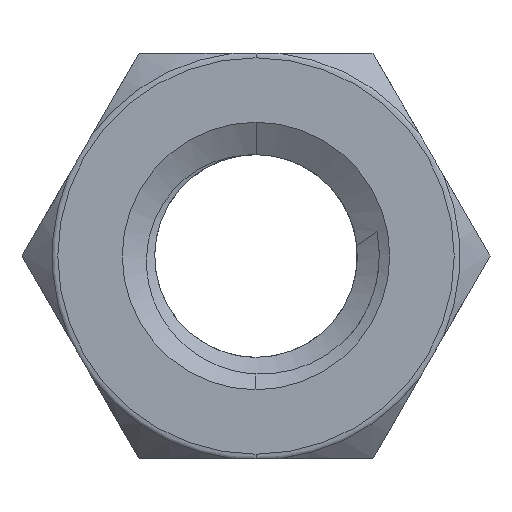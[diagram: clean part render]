
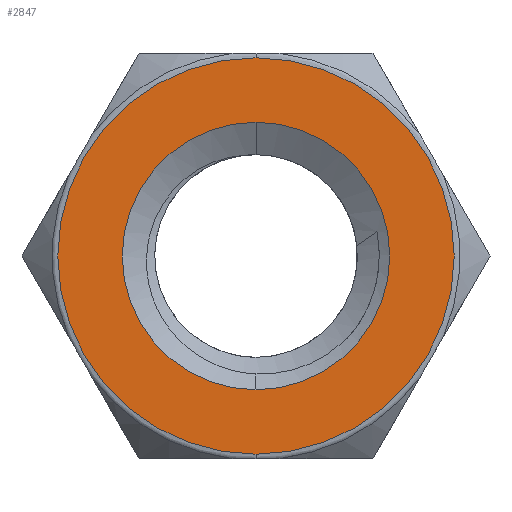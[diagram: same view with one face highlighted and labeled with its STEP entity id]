
A CAD part, front view. The second image highlights one B-rep face of the part: STEP entity #2847.
In plain terms, the highlighted planar face has unit normal (0, -1, 0).
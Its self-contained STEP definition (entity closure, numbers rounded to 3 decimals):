
#1 = AXIS2_PLACEMENT_3D ( 'NONE', #1547, #2592, #307 ) ;
#224 = DIRECTION ( 'NONE',  ( 0., 0., -1. ) ) ;
#258 = CARTESIAN_POINT ( 'NONE',  ( 0., -2., -3.3 ) ) ;
#261 = EDGE_LOOP ( 'NONE', ( #1771, #1965 ) ) ;
#307 = DIRECTION ( 'NONE',  ( 0., 0., 1. ) ) ;
#530 = DIRECTION ( 'NONE',  ( 0., -1., 0. ) ) ;
#727 = DIRECTION ( 'NONE',  ( 0., 0., 1. ) ) ;
#811 = EDGE_CURVE ( 'NONE', #2581, #1619, #2579, .T. ) ;
#822 = EDGE_LOOP ( 'NONE', ( #1380, #2651 ) ) ;
#974 = FACE_OUTER_BOUND ( 'NONE', #261, .T. ) ;
#1102 = CARTESIAN_POINT ( 'NONE',  ( 0., -2., -4.891 ) ) ;
#1168 = EDGE_CURVE ( 'NONE', #3011, #2905, #3277, .T. ) ;
#1184 = AXIS2_PLACEMENT_3D ( 'NONE', #1240, #1797, #224 ) ;
#1240 = CARTESIAN_POINT ( 'NONE',  ( 0., -2., 0. ) ) ;
#1357 = AXIS2_PLACEMENT_3D ( 'NONE', #2396, #2923, #2889 ) ;
#1380 = ORIENTED_EDGE ( 'NONE', *, *, #811, .F. ) ;
#1547 = CARTESIAN_POINT ( 'NONE',  ( 0., -2., 0. ) ) ;
#1619 = VERTEX_POINT ( 'NONE', #258 ) ;
#1621 = AXIS2_PLACEMENT_3D ( 'NONE', #2417, #2119, #3150 ) ;
#1771 = ORIENTED_EDGE ( 'NONE', *, *, #3078, .T. ) ;
#1797 = DIRECTION ( 'NONE',  ( 0., -1., 0. ) ) ;
#1818 = CARTESIAN_POINT ( 'NONE',  ( 0., -2., 3.3 ) ) ;
#1819 = AXIS2_PLACEMENT_3D ( 'NONE', #2008, #530, #727 ) ;
#1859 = PLANE ( 'NONE',  #1 ) ;
#1965 = ORIENTED_EDGE ( 'NONE', *, *, #1168, .T. ) ;
#2008 = CARTESIAN_POINT ( 'NONE',  ( 0., -2., 0. ) ) ;
#2095 = FACE_BOUND ( 'NONE', #822, .T. ) ;
#2119 = DIRECTION ( 'NONE',  ( 0., -1., 0. ) ) ;
#2396 = CARTESIAN_POINT ( 'NONE',  ( 0., -2., 0. ) ) ;
#2417 = CARTESIAN_POINT ( 'NONE',  ( 0., -2., 0. ) ) ;
#2579 = CIRCLE ( 'NONE', #1184, 3.3 ) ;
#2581 = VERTEX_POINT ( 'NONE', #1818 ) ;
#2592 = DIRECTION ( 'NONE',  ( 0., 1., 0. ) ) ;
#2642 = CARTESIAN_POINT ( 'NONE',  ( 0., -2., 4.891 ) ) ;
#2651 = ORIENTED_EDGE ( 'NONE', *, *, #2937, .F. ) ;
#2805 = CIRCLE ( 'NONE', #1357, 3.3 ) ;
#2847 = ADVANCED_FACE ( 'NONE', ( #974, #2095 ), #1859, .F. ) ;
#2889 = DIRECTION ( 'NONE',  ( 0., 0., -1. ) ) ;
#2905 = VERTEX_POINT ( 'NONE', #2642 ) ;
#2923 = DIRECTION ( 'NONE',  ( 0., -1., 0. ) ) ;
#2937 = EDGE_CURVE ( 'NONE', #1619, #2581, #2805, .T. ) ;
#3011 = VERTEX_POINT ( 'NONE', #1102 ) ;
#3078 = EDGE_CURVE ( 'NONE', #2905, #3011, #3082, .T. ) ;
#3082 = CIRCLE ( 'NONE', #1621, 4.891 ) ;
#3150 = DIRECTION ( 'NONE',  ( 0., 0., 1. ) ) ;
#3277 = CIRCLE ( 'NONE', #1819, 4.891 ) ;
